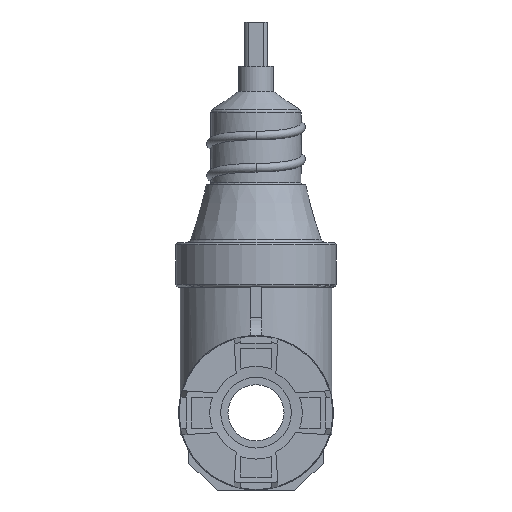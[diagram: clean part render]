
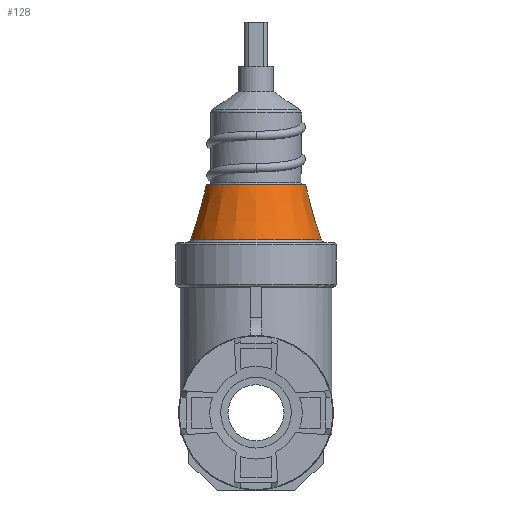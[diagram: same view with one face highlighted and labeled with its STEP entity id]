
A CAD part, left-side view. The second image highlights one B-rep face of the part: STEP entity #128.
In plain terms, the highlighted conical face has half-angle 15.974 degrees and reference radius 29.585 mm.
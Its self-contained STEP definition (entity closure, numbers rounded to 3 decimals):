
#128 = ADVANCED_FACE( '', ( #482, #483 ), #484, .T. );
#482 = FACE_BOUND( '', #1119, .T. );
#483 = FACE_OUTER_BOUND( '', #1120, .T. );
#484 = CONICAL_SURFACE( '', #1121, 29.585, 0.279 );
#1119 = EDGE_LOOP( '', ( #2147 ) );
#1120 = EDGE_LOOP( '', ( #2148 ) );
#1121 = AXIS2_PLACEMENT_3D( '', #2149, #2150, #2151 );
#2147 = ORIENTED_EDGE( '', *, *, #4262, .F. );
#2148 = ORIENTED_EDGE( '', *, *, #4263, .T. );
#2149 = CARTESIAN_POINT( '', ( 0., 0., 78.45 ) );
#2150 = DIRECTION( '', ( 0., 0., -1. ) );
#2151 = DIRECTION( '', ( -1., 0., 0. ) );
#4262 = EDGE_CURVE( '', #5228, #5228, #5229, .T. );
#4263 = EDGE_CURVE( '', #5230, #5230, #5231, .T. );
#5228 = VERTEX_POINT( '', #7963 );
#5229 = CIRCLE( '', #7964, 22.5 );
#5230 = VERTEX_POINT( '', #7965 );
#5231 = CIRCLE( '', #7966, 29.585 );
#7963 = CARTESIAN_POINT( '', ( 22.5, 0., 103.2 ) );
#7964 = AXIS2_PLACEMENT_3D( '', #9860, #9861, #9862 );
#7965 = CARTESIAN_POINT( '', ( 29.585, 0., 78.45 ) );
#7966 = AXIS2_PLACEMENT_3D( '', #9863, #9864, #9865 );
#9860 = CARTESIAN_POINT( '', ( 0., 0., 103.2 ) );
#9861 = DIRECTION( '', ( 0., 0., 1. ) );
#9862 = DIRECTION( '', ( 1., 0., 0. ) );
#9863 = CARTESIAN_POINT( '', ( 0., 0., 78.45 ) );
#9864 = DIRECTION( '', ( 0., 0., 1. ) );
#9865 = DIRECTION( '', ( 1., 0., 0. ) );
